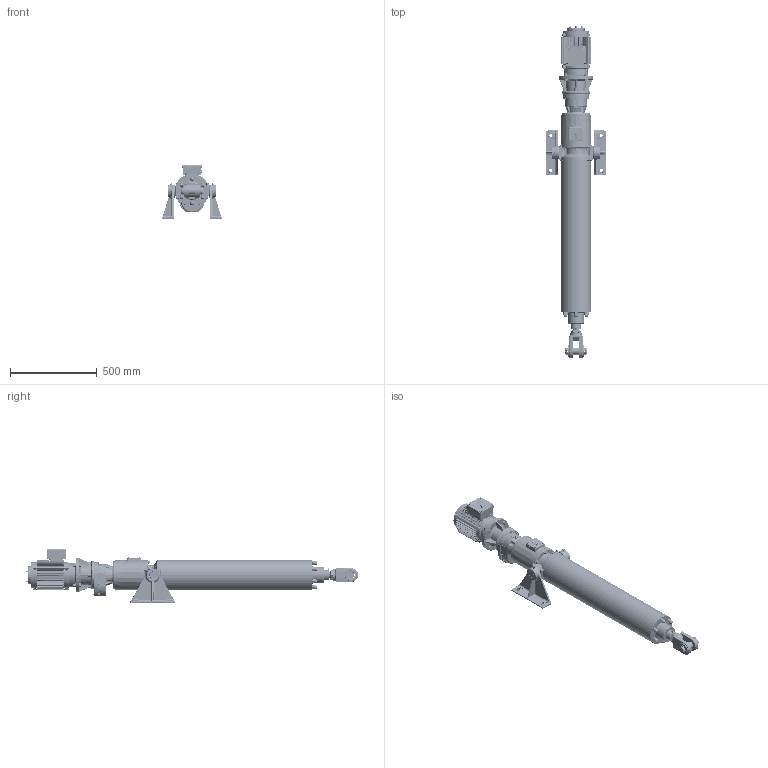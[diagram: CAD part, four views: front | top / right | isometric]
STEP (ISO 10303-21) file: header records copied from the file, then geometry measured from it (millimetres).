
FILE_DESCRIPTION( ( '153-599-4' ), '1' );
FILE_NAME( 'C:/daten/bearbeitung katalogbilder/RBs rendern/austausch pomplun/mit identnr/T1M7-0600-160-235-7.stp', 'Unknown', ( 'Christoph Hahmann' ), ( 'RACO-ELEKTRO-MASCHINEN GmbH' ), 'PSStep 17.0.49', 'Solid Edge ST 7', ' ' );
FILE_SCHEMA( ( 'AUTOMOTIVE_DESIGN { 1 0 10303 214 1 1 1 1 }' ) );
Length unit declared in the file: millimetre
Products named in the file (12): Assem1; 03.01-07 kpl; 02.14-07-0600; 01.15-07-0600; 02.01-07 kpl; 01.74-07; 01.01-07-gabelkkopf 133-277-52; 108-323-6 kpl; 03.65-07-2Füße; 04.01-05-7-170; 10.02-04-08 105-983-12; BGR 6-7
Assembly tree (11 placements, depth 2):
  Assem1
    03.01-07 kpl
    02.14-07-0600
    01.15-07-0600
    02.01-07 kpl
    01.74-07
    01.01-07-gabelkkopf 133-277-52
    108-323-6 kpl
    03.65-07-2Füße
    04.01-05-7-170
    10.02-04-08 105-983-12
    BGR 6-7
Bounding box: 350 x 1916.5 x 309 mm (x, y, z)
Surface area: 2622011.4 mm2 (no closed solid volume)
Topology: 0 solids, 8963 shells, 8963 faces, 44508 edges, 42936 vertices
Faces by surface type: plane 3816, cylinder 2057, bspline 1154, cone 763, torus 657, sphere 319, extrusion 191, revolution 6
Full cylindrical faces by diameter (mm): 1.6 x2, 2 x1, 2.459 x12, 3 x4, 3.242 x16, 4 x3, 4.02 x4, 4.134 x19, 4.5 x2, 4.773 x13, 4.917 x7, 5 x19, 5.3 x3, 5.4 x4, 5.5 x8, 5.7 x7, 6 x30, 6.47 x8, 6.6 x7, 6.647 x3, 6.8 x8, 7 x11, 7.33 x1, 7.5 x3, 8 x23, 8.15 x1, 8.2 x1, 8.376 x20, 8.4 x2, 8.566 x1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
Entity records: 728227 total; most frequent: CARTESIAN_POINT 340540, DIRECTION 65747, VERTEX_POINT 42383, ORIENTED_EDGE 42314, EDGE_CURVE 42314, AXIS2_PLACEMENT_3D 23753, VECTOR 18235, LINE 18044
